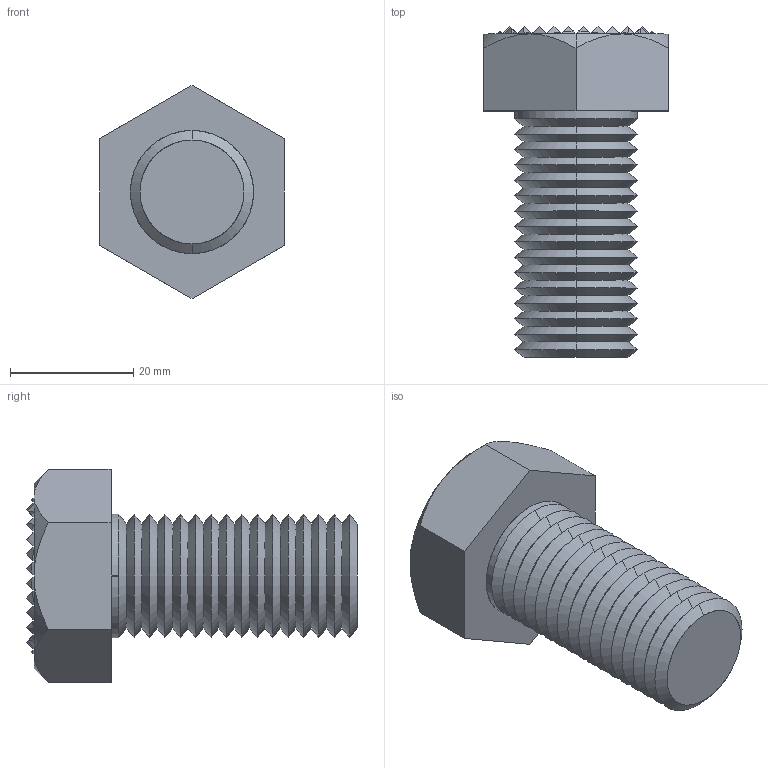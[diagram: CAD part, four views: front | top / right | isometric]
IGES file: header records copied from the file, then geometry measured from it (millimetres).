
Start section: SolidWorks IGES file using analytic representation for surfaces
Global section: file name: C:\Documents and Settings\IANO\Desktop\Temp File\Process pending\NEW\35400_v2\35400_v2_20170704_IGES\35400.W0013.igs; native system: SolidWorks 2009; preprocessor: SolidWorks 2009; author: IANO; date: 170703.082249; units: millimetre
Bounding box: 30 x 53.7 x 34.64 mm (x, y, z)
Surface area: 6604.8 mm2 (no closed solid volume)
Topology: 0 solids, 0 shells, 524 faces, 1941 edges, 1941 vertices
Faces by surface type: bspline 409, revolution 115
